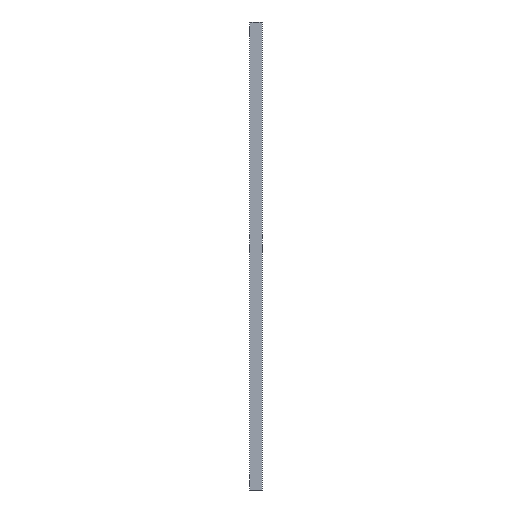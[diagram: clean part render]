
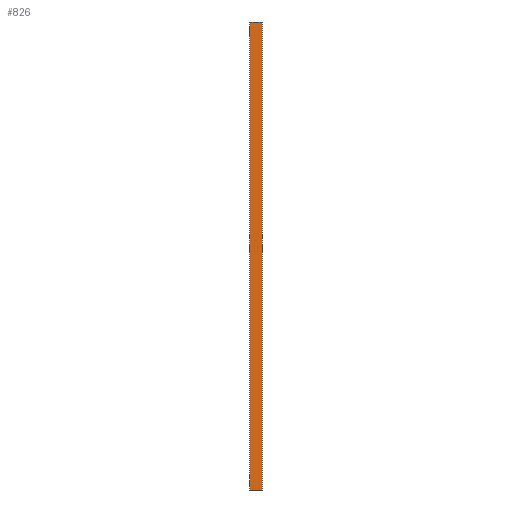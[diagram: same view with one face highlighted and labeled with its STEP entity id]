
A CAD part, left-side view. The second image highlights one B-rep face of the part: STEP entity #826.
In plain terms, the highlighted planar face has unit normal (-1, 0, 0).
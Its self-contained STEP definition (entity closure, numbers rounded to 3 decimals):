
#32 = DIRECTION ( 'NONE',  ( 0., -1., 0. ) ) ;
#48 = EDGE_CURVE ( 'NONE', #799, #185, #1182, .T. ) ;
#133 = DIRECTION ( 'NONE',  ( 0., 1., 0. ) ) ;
#146 = DIRECTION ( 'NONE',  ( 0., 1., 0. ) ) ;
#155 = ORIENTED_EDGE ( 'NONE', *, *, #48, .T. ) ;
#164 = VERTEX_POINT ( 'NONE', #999 ) ;
#179 = AXIS2_PLACEMENT_3D ( 'NONE', #1354, #266, #1143 ) ;
#185 = VERTEX_POINT ( 'NONE', #284 ) ;
#191 = CARTESIAN_POINT ( 'NONE',  ( -8., 0., 0. ) ) ;
#223 = VECTOR ( 'NONE', #133, 1000. ) ;
#226 = EDGE_CURVE ( 'NONE', #799, #1400, #802, .T. ) ;
#239 = ORIENTED_EDGE ( 'NONE', *, *, #902, .F. ) ;
#251 = VERTEX_POINT ( 'NONE', #592 ) ;
#253 = DIRECTION ( 'NONE',  ( 0., 0., -1. ) ) ;
#266 = DIRECTION ( 'NONE',  ( -1., 0., 0. ) ) ;
#267 = CARTESIAN_POINT ( 'NONE',  ( -8., 0., 0. ) ) ;
#284 = CARTESIAN_POINT ( 'NONE',  ( -8., 0., 0. ) ) ;
#295 = ORIENTED_EDGE ( 'NONE', *, *, #1065, .T. ) ;
#361 = EDGE_LOOP ( 'NONE', ( #479, #155, #376, #239, #295, #420, #1241, #1180 ) ) ;
#376 = ORIENTED_EDGE ( 'NONE', *, *, #1063, .F. ) ;
#412 = VECTOR ( 'NONE', #253, 1000. ) ;
#416 = LINE ( 'NONE', #615, #706 ) ;
#420 = ORIENTED_EDGE ( 'NONE', *, *, #1102, .T. ) ;
#465 = FACE_OUTER_BOUND ( 'NONE', #361, .T. ) ;
#470 = LINE ( 'NONE', #906, #658 ) ;
#478 = VECTOR ( 'NONE', #146, 1000. ) ;
#479 = ORIENTED_EDGE ( 'NONE', *, *, #226, .F. ) ;
#480 = DIRECTION ( 'NONE',  ( 0., -1., 0. ) ) ;
#553 = DIRECTION ( 'NONE',  ( 0., 0., -1. ) ) ;
#589 = CARTESIAN_POINT ( 'NONE',  ( -8., 9.3, 479. ) ) ;
#592 = CARTESIAN_POINT ( 'NONE',  ( -8., 3.2, 479. ) ) ;
#601 = LINE ( 'NONE', #1126, #412 ) ;
#606 = VERTEX_POINT ( 'NONE', #589 ) ;
#615 = CARTESIAN_POINT ( 'NONE',  ( -8., 0., 0. ) ) ;
#655 = VECTOR ( 'NONE', #553, 1000. ) ;
#656 = VECTOR ( 'NONE', #32, 1000. ) ;
#658 = VECTOR ( 'NONE', #480, 1000. ) ;
#677 = VECTOR ( 'NONE', #1148, 1000. ) ;
#704 = CARTESIAN_POINT ( 'NONE',  ( -8., 0., 479. ) ) ;
#706 = VECTOR ( 'NONE', #744, 1000. ) ;
#744 = DIRECTION ( 'NONE',  ( 0., 1., 0. ) ) ;
#746 = EDGE_CURVE ( 'NONE', #1400, #164, #416, .T. ) ;
#760 = LINE ( 'NONE', #1298, #655 ) ;
#799 = VERTEX_POINT ( 'NONE', #1035 ) ;
#802 = LINE ( 'NONE', #267, #677 ) ;
#820 = VERTEX_POINT ( 'NONE', #1015 ) ;
#826 = ADVANCED_FACE ( 'NONE', ( #465 ), #919, .T. ) ;
#902 = EDGE_CURVE ( 'NONE', #251, #820, #470, .T. ) ;
#906 = CARTESIAN_POINT ( 'NONE',  ( -8., 0., 479. ) ) ;
#919 = PLANE ( 'NONE',  #179 ) ;
#926 = CARTESIAN_POINT ( 'NONE',  ( -8., 12.5, 479. ) ) ;
#972 = VERTEX_POINT ( 'NONE', #977 ) ;
#977 = CARTESIAN_POINT ( 'NONE',  ( -8., 12.5, 479. ) ) ;
#999 = CARTESIAN_POINT ( 'NONE',  ( -8., 12.5, 0. ) ) ;
#1015 = CARTESIAN_POINT ( 'NONE',  ( -8., 0., 479. ) ) ;
#1035 = CARTESIAN_POINT ( 'NONE',  ( -8., 3.2, 0. ) ) ;
#1036 = LINE ( 'NONE', #704, #223 ) ;
#1063 = EDGE_CURVE ( 'NONE', #820, #185, #601, .T. ) ;
#1065 = EDGE_CURVE ( 'NONE', #251, #606, #1036, .T. ) ;
#1094 = CARTESIAN_POINT ( 'NONE',  ( -8., 9.3, 0. ) ) ;
#1102 = EDGE_CURVE ( 'NONE', #606, #972, #1372, .T. ) ;
#1126 = CARTESIAN_POINT ( 'NONE',  ( -8., 0., 479. ) ) ;
#1143 = DIRECTION ( 'NONE',  ( 0., 0., 1. ) ) ;
#1148 = DIRECTION ( 'NONE',  ( 0., 1., 0. ) ) ;
#1180 = ORIENTED_EDGE ( 'NONE', *, *, #746, .F. ) ;
#1182 = LINE ( 'NONE', #191, #656 ) ;
#1241 = ORIENTED_EDGE ( 'NONE', *, *, #1337, .T. ) ;
#1298 = CARTESIAN_POINT ( 'NONE',  ( -8., 12.5, 479. ) ) ;
#1337 = EDGE_CURVE ( 'NONE', #972, #164, #760, .T. ) ;
#1354 = CARTESIAN_POINT ( 'NONE',  ( -8., 0., 479. ) ) ;
#1372 = LINE ( 'NONE', #926, #478 ) ;
#1400 = VERTEX_POINT ( 'NONE', #1094 ) ;
